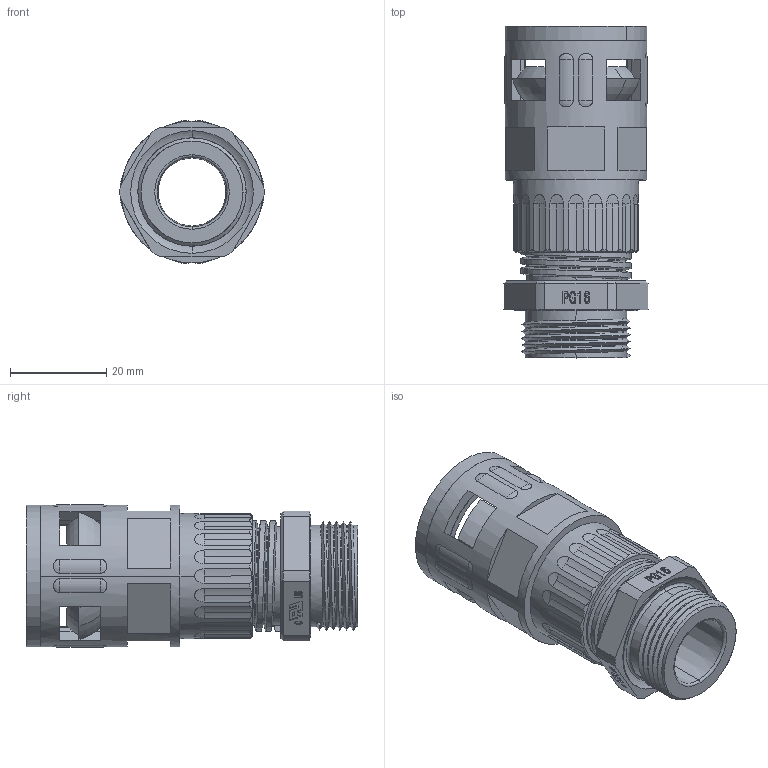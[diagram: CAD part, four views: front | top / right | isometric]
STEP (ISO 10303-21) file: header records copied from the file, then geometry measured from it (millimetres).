
FILE_DESCRIPTION (( 'STEP AP214' ), '1' );
FILE_NAME ('WQGZ-P16-AD21.2.STEP', '2020-03-11T06:08:49', ( '' ), ( '' ), 'SwSTEP 2.0', 'SolidWorks 2016', '' );
FILE_SCHEMA (( 'AUTOMOTIVE_DESIGN' ));
Length unit declared in the file: millimetre
Products named in the file (8): GFD-AD21.2; WQGZ-P16-AD21.2; WQG2-Tr23-AD21.2-01; CTH-P16; NSK-AD21.2; WQG2-Tr38-AD23-AD21.2; HSK-P16-01; 蚾饜极5
Assembly tree (7 placements, depth 3):
  WQGZ-P16-AD21.2
    WQG2-Tr38-AD23-AD21.2
      WQG2-Tr23-AD21.2-01
      GFD-AD21.2
      NSK-AD21.2
    蚾饜极5
      HSK-P16-01
      CTH-P16
Bounding box: 29.99 x 69 x 29.69 mm (x, y, z)
Volume: 20020.6 mm3; surface area: 21258.8 mm2
Topology: 8 solids, 8 shells, 689 faces, 1861 edges, 1190 vertices
Faces by surface type: plane 332, cylinder 129, cone 78, bspline 59, torus 55, sphere 36
Entity records: 27794 total; most frequent: CARTESIAN_POINT 10977, ORIENTED_EDGE 3618, DIRECTION 3208, EDGE_CURVE 1809, VERTEX_POINT 1174, AXIS2_PLACEMENT_3D 1152, LINE 904, VECTOR 904
